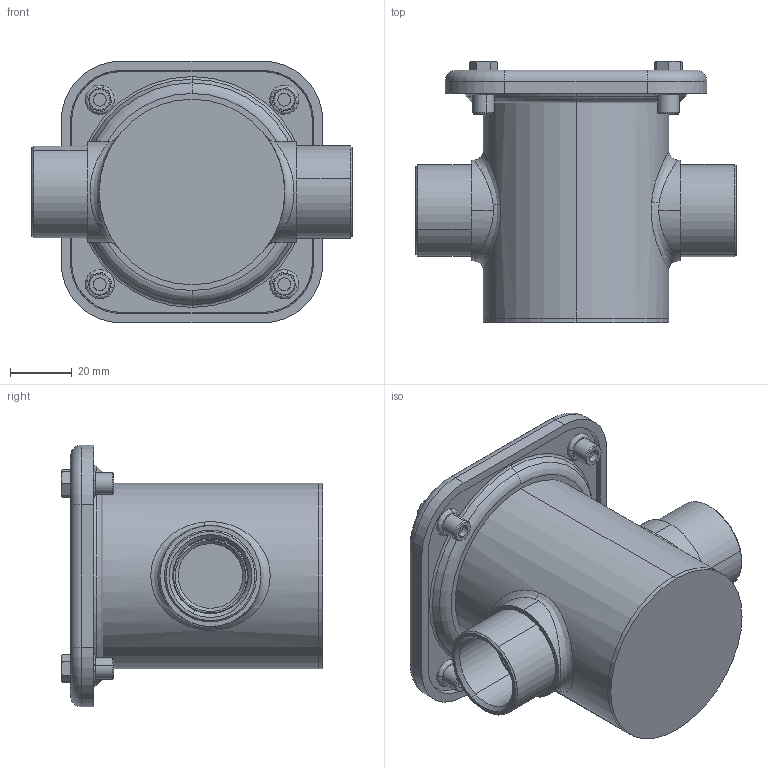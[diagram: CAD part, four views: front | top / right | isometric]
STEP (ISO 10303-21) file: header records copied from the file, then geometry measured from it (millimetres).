
FILE_DESCRIPTION (( 'STEP AP203' ), '1' );
FILE_NAME ('06I1829 G 3_4.STEP', '2024-01-17T08:31:36', ( '' ), ( '' ), 'SwSTEP 2.0', 'SolidWorks 2016', '' );
FILE_SCHEMA (( 'CONFIG_CONTROL_DESIGN' ));
Length unit declared in the file: millimetre
Products named in the file (18): 06I1832_06G1635; ANELLO OR 6225_05G1647; VITE TE M5 x 8_TE M5 x 12; 06D1909; 06D1908; 06G2001_06G1636; 06A1716; 06I1833_06G1643; 06I1834; 06E0614-01_06E0614; RIVETTO M5 x sp. 2.5; 06E0613; 06I1830; 06I1831_06G1632; 06L1804_06G1644; 06I1829 G 3_4; 06D1907; 06I1823
Assembly tree (23 placements, depth 4):
  06I1829 G 3_4
    06D1908
      06D1907
        06I1832_06G1635
        06A1716
        06L1804_06G1644
        06E0614-01_06E0614
        06I1833_06G1643
      RIVETTO M5 x sp. 2.5  x4
    ANELLO OR 6225_05G1647
    06D1909
      06E0613
      06G2001_06G1636
      06I1830
        06I1831_06G1632
        06I1823
    VITE TE M5 x 8_TE M5 x 12  x4
    06I1834
Bounding box: 104 x 85 x 85 mm (x, y, z)
Volume: 88492.6 mm3; surface area: 82730.9 mm2
Topology: 19 solids, 19 shells, 528 faces, 1230 edges, 758 vertices
Faces by surface type: plane 299, cylinder 115, cone 66, torus 40, bspline 8
Entity records: 13745 total; most frequent: CARTESIAN_POINT 4066, DIRECTION 1676, ORIENTED_EDGE 1524, EDGE_CURVE 762, AXIS2_PLACEMENT_3D 643, VERTEX_POINT 476, VECTOR 390, LINE 390
